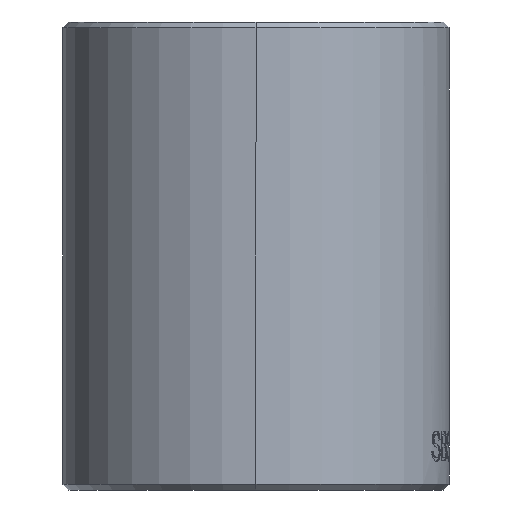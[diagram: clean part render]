
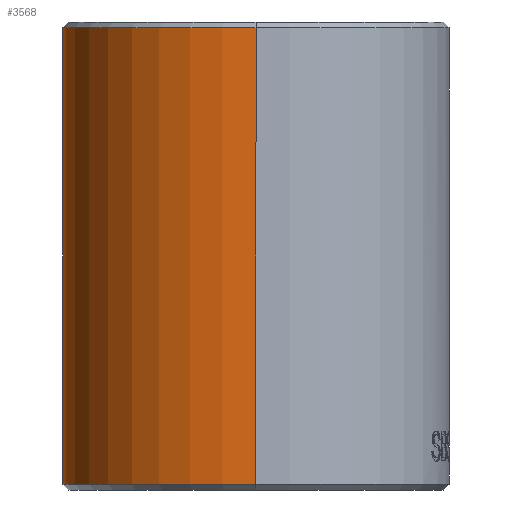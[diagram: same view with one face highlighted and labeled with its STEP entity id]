
A CAD part, left-side view. The second image highlights one B-rep face of the part: STEP entity #3568.
In plain terms, the highlighted cylindrical face has radius 16.5 mm (diameter 33 mm), a partial arc.
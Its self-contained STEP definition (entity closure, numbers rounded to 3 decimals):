
#32 = VECTOR ( 'NONE', #2989, 1000. ) ;
#403 = CARTESIAN_POINT ( 'NONE',  ( 133.5, 25., 39.5 ) ) ;
#523 = DIRECTION ( 'NONE',  ( 0., 0., -1. ) ) ;
#539 = FACE_OUTER_BOUND ( 'NONE', #2614, .T. ) ;
#540 = EDGE_CURVE ( 'NONE', #870, #1441, #1175, .T. ) ;
#542 = DIRECTION ( 'NONE',  ( 0., 0., 1. ) ) ;
#818 = VERTEX_POINT ( 'NONE', #403 ) ;
#839 = DIRECTION ( 'NONE',  ( -1., 0., 0. ) ) ;
#870 = VERTEX_POINT ( 'NONE', #1640 ) ;
#1018 = EDGE_CURVE ( 'NONE', #2589, #870, #1116, .T. ) ;
#1116 = LINE ( 'NONE', #3702, #2313 ) ;
#1175 = CIRCLE ( 'NONE', #1593, 16.5 ) ;
#1290 = ORIENTED_EDGE ( 'NONE', *, *, #540, .T. ) ;
#1433 = CARTESIAN_POINT ( 'NONE',  ( 150., 25., 39.5 ) ) ;
#1441 = VERTEX_POINT ( 'NONE', #2785 ) ;
#1593 = AXIS2_PLACEMENT_3D ( 'NONE', #3085, #542, #839 ) ;
#1640 = CARTESIAN_POINT ( 'NONE',  ( 166.5, 25., 0.5 ) ) ;
#1680 = DIRECTION ( 'NONE',  ( 0., 0., -1. ) ) ;
#1710 = CARTESIAN_POINT ( 'NONE',  ( 150., 25., 40. ) ) ;
#1843 = CARTESIAN_POINT ( 'NONE',  ( 133.5, 25., 40. ) ) ;
#1966 = ORIENTED_EDGE ( 'NONE', *, *, #2842, .F. ) ;
#2125 = LINE ( 'NONE', #1843, #32 ) ;
#2128 = AXIS2_PLACEMENT_3D ( 'NONE', #1710, #523, #2822 ) ;
#2313 = VECTOR ( 'NONE', #1680, 1000. ) ;
#2444 = ORIENTED_EDGE ( 'NONE', *, *, #1018, .T. ) ;
#2589 = VERTEX_POINT ( 'NONE', #3625 ) ;
#2614 = EDGE_LOOP ( 'NONE', ( #2934, #2444, #1290, #1966 ) ) ;
#2673 = AXIS2_PLACEMENT_3D ( 'NONE', #1433, #3125, #3675 ) ;
#2785 = CARTESIAN_POINT ( 'NONE',  ( 133.5, 25., 0.5 ) ) ;
#2822 = DIRECTION ( 'NONE',  ( -1., 0., 0. ) ) ;
#2842 = EDGE_CURVE ( 'NONE', #818, #1441, #2125, .T. ) ;
#2934 = ORIENTED_EDGE ( 'NONE', *, *, #3213, .T. ) ;
#2989 = DIRECTION ( 'NONE',  ( 0., 0., -1. ) ) ;
#3085 = CARTESIAN_POINT ( 'NONE',  ( 150., 25., 0.5 ) ) ;
#3125 = DIRECTION ( 'NONE',  ( 0., 0., -1. ) ) ;
#3139 = CYLINDRICAL_SURFACE ( 'NONE', #2128, 16.5 ) ;
#3213 = EDGE_CURVE ( 'NONE', #818, #2589, #3673, .T. ) ;
#3568 = ADVANCED_FACE ( 'NONE', ( #539 ), #3139, .T. ) ;
#3625 = CARTESIAN_POINT ( 'NONE',  ( 166.5, 25., 39.5 ) ) ;
#3673 = CIRCLE ( 'NONE', #2673, 16.5 ) ;
#3675 = DIRECTION ( 'NONE',  ( -1., 0., 0. ) ) ;
#3702 = CARTESIAN_POINT ( 'NONE',  ( 166.5, 25., 40. ) ) ;
